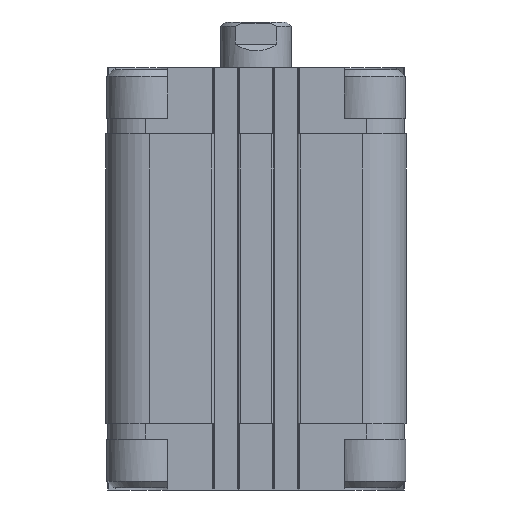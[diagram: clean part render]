
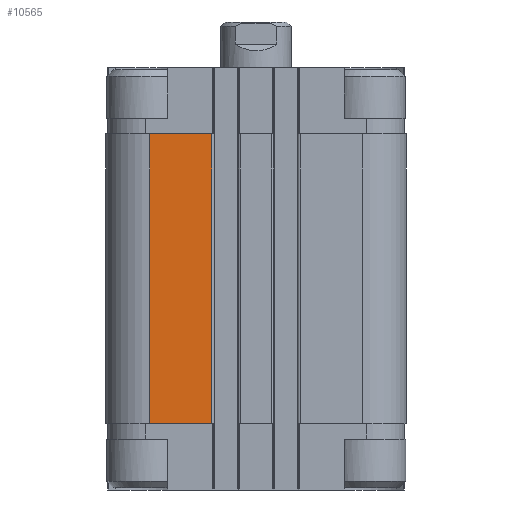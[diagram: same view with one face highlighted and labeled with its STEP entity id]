
A CAD part, front view. The second image highlights one B-rep face of the part: STEP entity #10565.
In plain terms, the highlighted planar face has unit normal (0, -1, 0).
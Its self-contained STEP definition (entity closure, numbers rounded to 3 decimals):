
#2064 = VERTEX_POINT ( 'NONE', #2991 ) ;
#2065 = VERTEX_POINT ( 'NONE', #2992 ) ;
#2163 = VERTEX_POINT ( 'NONE', #3090 ) ;
#2165 = VERTEX_POINT ( 'NONE', #3092 ) ;
#2991 = CARTESIAN_POINT ( 'NONE',  ( -9.978, -34., 15. ) ) ;
#2992 = CARTESIAN_POINT ( 'NONE',  ( -24., -34., 15. ) ) ;
#3090 = CARTESIAN_POINT ( 'NONE',  ( -9.978, -34., 80.5 ) ) ;
#3092 = CARTESIAN_POINT ( 'NONE',  ( -24., -34., 80.5 ) ) ;
#5764 = LINE ( 'NONE', #16333, #5770 ) ;
#5768 = LINE ( 'NONE', #16332, #5774 ) ;
#5769 = LINE ( 'NONE', #16337, #5772 ) ;
#5770 = VECTOR ( 'NONE', #16330, 1000. ) ;
#5772 = VECTOR ( 'NONE', #16339, 1000. ) ;
#5774 = VECTOR ( 'NONE', #16340, 1000. ) ;
#6039 = CARTESIAN_POINT ( 'NONE',  ( -24., -34., 15. ) ) ;
#6044 = PLANE ( 'NONE',  #11481 ) ;
#6047 = DIRECTION ( 'NONE',  ( 0., 1., 0. ) ) ;
#6048 = DIRECTION ( 'NONE',  ( 0., 0., 1. ) ) ;
#6419 = CARTESIAN_POINT ( 'NONE',  ( -16.989, -34., 80.5 ) ) ;
#6420 = DIRECTION ( 'NONE',  ( 1., 0., 0. ) ) ;
#9782 = ORIENTED_EDGE ( 'NONE', *, *, #10220, .T. ) ;
#9784 = ORIENTED_EDGE ( 'NONE', *, *, #10691, .F. ) ;
#9786 = ORIENTED_EDGE ( 'NONE', *, *, #10219, .F. ) ;
#9788 = ORIENTED_EDGE ( 'NONE', *, *, #10221, .T. ) ;
#10219 = EDGE_CURVE ( 'NONE', #2065, #2165, #5764, .T. ) ;
#10220 = EDGE_CURVE ( 'NONE', #2064, #2163, #5769, .T. ) ;
#10221 = EDGE_CURVE ( 'NONE', #2065, #2064, #5768, .T. ) ;
#10565 = ADVANCED_FACE ( 'NONE', ( #17139 ), #6044, .F. ) ;
#10691 = EDGE_CURVE ( 'NONE', #2165, #2163, #17345, .T. ) ;
#11481 = AXIS2_PLACEMENT_3D ( 'NONE', #6039, #6047, #6048 ) ;
#15284 = EDGE_LOOP ( 'NONE', ( #9782, #9784, #9786, #9788 ) ) ;
#16330 = DIRECTION ( 'NONE',  ( 0., 0., 1. ) ) ;
#16332 = CARTESIAN_POINT ( 'NONE',  ( -21.739, -34., 15. ) ) ;
#16333 = CARTESIAN_POINT ( 'NONE',  ( -24., -34., 47.75 ) ) ;
#16337 = CARTESIAN_POINT ( 'NONE',  ( -9.978, -34., 47.75 ) ) ;
#16339 = DIRECTION ( 'NONE',  ( 0., 0., 1. ) ) ;
#16340 = DIRECTION ( 'NONE',  ( 1., 0., 0. ) ) ;
#17139 = FACE_OUTER_BOUND ( 'NONE', #15284, .T. ) ;
#17345 = LINE ( 'NONE', #6419, #17347 ) ;
#17347 = VECTOR ( 'NONE', #6420, 1000. ) ;
